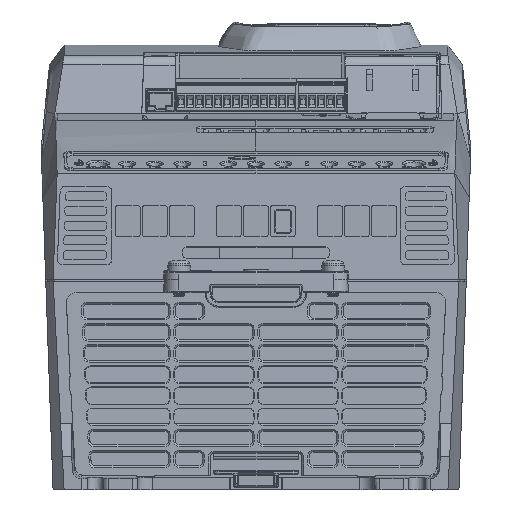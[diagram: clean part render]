
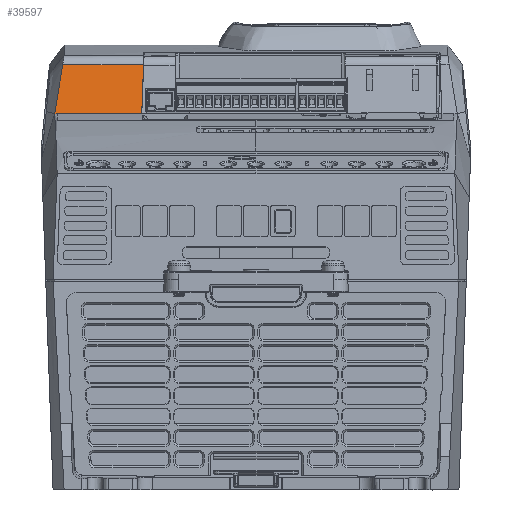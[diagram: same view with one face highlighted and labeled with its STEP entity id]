
A CAD part, front view. The second image highlights one B-rep face of the part: STEP entity #39597.
In plain terms, the highlighted planar face has unit normal (0, -0.984, 0.178).
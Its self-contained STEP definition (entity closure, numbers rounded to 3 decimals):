
#304 = VERTEX_POINT ( 'NONE', #11035 ) ;
#1898 = B_SPLINE_CURVE_WITH_KNOTS ( 'NONE', 3,
 ( #205933, #302590, #14508, #75579 ),
 .UNSPECIFIED., .F., .F.,
 ( 4, 4 ),
 ( 0., 0. ),
 .UNSPECIFIED. ) ;
#3171 = LINE ( 'NONE', #326916, #368938 ) ;
#5008 = VERTEX_POINT ( 'NONE', #154567 ) ;
#11035 = CARTESIAN_POINT ( 'NONE',  ( -61.858, -60.882, 97.761 ) ) ;
#13624 = B_SPLINE_CURVE_WITH_KNOTS ( 'NONE', 3,
 ( #142173, #74910, #331366, #240954, #13847, #81149, #138025, #146365, #108572, #173711, #362931, #43342, #49587, #177853, #299844, #274581, #270379, #402758, #398572, #245114, #59979 ),
 .UNSPECIFIED., .F., .F.,
 ( 4, 2, 2, 1, 1, 1, 1, 1, 1, 1, 1, 1, 2, 2, 4 ),
 ( 0., 0.25, 0.375, 0.437, 0.469, 0.484, 0.492, 0.496, 0.498, 0.499, 0.5, 0.5, 0.5, 0.5, 1. ),
 .UNSPECIFIED. ) ;
#13847 = CARTESIAN_POINT ( 'NONE',  ( -108.249, -63.635, 82.539 ) ) ;
#14508 = CARTESIAN_POINT ( 'NONE',  ( -61.858, -60.883, 97.759 ) ) ;
#14835 = VERTEX_POINT ( 'NONE', #218781 ) ;
#19865 = CARTESIAN_POINT ( 'NONE',  ( -61.869, -61.097, 96.573 ) ) ;
#35983 = ORIENTED_EDGE ( 'NONE', *, *, #342758, .T. ) ;
#37134 = CARTESIAN_POINT ( 'NONE',  ( -105.741, -60.882, 97.761 ) ) ;
#39597 = ADVANCED_FACE ( 'NONE', ( #211275 ), #55600, .T. ) ;
#41616 = ORIENTED_EDGE ( 'NONE', *, *, #165744, .T. ) ;
#43342 = CARTESIAN_POINT ( 'NONE',  ( -107.933, -63.289, 84.452 ) ) ;
#49587 = CARTESIAN_POINT ( 'NONE',  ( -107.932, -63.288, 84.458 ) ) ;
#52815 = VERTEX_POINT ( 'NONE', #53337 ) ;
#52913 = CARTESIAN_POINT ( 'NONE',  ( -62.731, -65.692, 71.165 ) ) ;
#53337 = CARTESIAN_POINT ( 'NONE',  ( -61.984, -62.165, 90.668 ) ) ;
#55600 = PLANE ( 'NONE',  #113410 ) ;
#59979 = CARTESIAN_POINT ( 'NONE',  ( -105.741, -60.882, 97.761 ) ) ;
#74910 = CARTESIAN_POINT ( 'NONE',  ( -109.457, -64.961, 75.206 ) ) ;
#75579 = CARTESIAN_POINT ( 'NONE',  ( -61.858, -60.882, 97.761 ) ) ;
#80906 = CARTESIAN_POINT ( 'NONE',  ( -110.123, -65.692, 71.166 ) ) ;
#81149 = CARTESIAN_POINT ( 'NONE',  ( -108.087, -63.458, 83.517 ) ) ;
#85135 = CARTESIAN_POINT ( 'NONE',  ( -61.911, -61.738, 93.03 ) ) ;
#90692 = CARTESIAN_POINT ( 'NONE',  ( -108.589, -65.692, 71.165 ) ) ;
#98231 = DIRECTION ( 'NONE',  ( 1., 0., 0. ) ) ;
#105582 = B_SPLINE_CURVE_WITH_KNOTS ( 'NONE', 3,
 ( #238809, #121007, #175725, #306059 ),
 .UNSPECIFIED., .F., .F.,
 ( 4, 4 ),
 ( 0., 0.032 ),
 .UNSPECIFIED. ) ;
#108572 = CARTESIAN_POINT ( 'NONE',  ( -107.948, -63.305, 84.365 ) ) ;
#113410 = AXIS2_PLACEMENT_3D ( 'NONE', #148178, #183854, #312106 ) ;
#116041 = CARTESIAN_POINT ( 'NONE',  ( -93.303, -65.692, 71.165 ) ) ;
#116682 = CARTESIAN_POINT ( 'NONE',  ( -61.876, -61.311, 95.392 ) ) ;
#121007 = CARTESIAN_POINT ( 'NONE',  ( -109.611, -65.692, 71.165 ) ) ;
#122233 = CARTESIAN_POINT ( 'NONE',  ( -78.017, -65.692, 71.165 ) ) ;
#125682 = LINE ( 'NONE', #37134, #156858 ) ;
#132542 = VERTEX_POINT ( 'NONE', #151412 ) ;
#138025 = CARTESIAN_POINT ( 'NONE',  ( -108.021, -63.385, 83.921 ) ) ;
#142173 = CARTESIAN_POINT ( 'NONE',  ( -110.123, -65.692, 71.166 ) ) ;
#144650 = EDGE_CURVE ( 'NONE', #5008, #304, #125682, .T. ) ;
#146365 = CARTESIAN_POINT ( 'NONE',  ( -107.968, -63.327, 84.242 ) ) ;
#148178 = CARTESIAN_POINT ( 'NONE',  ( 119.5, -65.692, 71.165 ) ) ;
#151412 = CARTESIAN_POINT ( 'NONE',  ( -62.731, -65.692, 71.165 ) ) ;
#154567 = CARTESIAN_POINT ( 'NONE',  ( -105.741, -60.882, 97.761 ) ) ;
#156858 = VECTOR ( 'NONE', #98231, 1000. ) ;
#165744 = EDGE_CURVE ( 'NONE', #350811, #190851, #105582, .T. ) ;
#168915 = ORIENTED_EDGE ( 'NONE', *, *, #144650, .F. ) ;
#173711 = CARTESIAN_POINT ( 'NONE',  ( -107.939, -63.295, 84.417 ) ) ;
#175725 = CARTESIAN_POINT ( 'NONE',  ( -109.1, -65.692, 71.165 ) ) ;
#177853 = CARTESIAN_POINT ( 'NONE',  ( -107.932, -63.288, 84.461 ) ) ;
#183854 = DIRECTION ( 'NONE',  ( 0., -0.984, 0.178 ) ) ;
#187030 = ORIENTED_EDGE ( 'NONE', *, *, #405442, .F. ) ;
#190851 = VERTEX_POINT ( 'NONE', #229414 ) ;
#205933 = CARTESIAN_POINT ( 'NONE',  ( -61.858, -60.884, 97.754 ) ) ;
#211275 = FACE_OUTER_BOUND ( 'NONE', #263997, .T. ) ;
#213966 = ORIENTED_EDGE ( 'NONE', *, *, #361017, .F. ) ;
#218781 = CARTESIAN_POINT ( 'NONE',  ( -61.858, -60.884, 97.754 ) ) ;
#229414 = CARTESIAN_POINT ( 'NONE',  ( -108.589, -65.692, 71.165 ) ) ;
#238809 = CARTESIAN_POINT ( 'NONE',  ( -110.123, -65.692, 71.166 ) ) ;
#240954 = CARTESIAN_POINT ( 'NONE',  ( -108.394, -63.794, 81.659 ) ) ;
#245114 = CARTESIAN_POINT ( 'NONE',  ( -106.111, -61.289, 95.513 ) ) ;
#255986 = EDGE_CURVE ( 'NONE', #350811, #5008, #13624, .T. ) ;
#263244 = B_SPLINE_CURVE_WITH_KNOTS ( 'NONE', 3,
 ( #373124, #307961, #85135, #116682, #19865, #398346 ),
 .UNSPECIFIED., .F., .F.,
 ( 4, 2, 4 ),
 ( 0.025, 0.029, 0.032 ),
 .UNSPECIFIED. ) ;
#263997 = EDGE_LOOP ( 'NONE', ( #168915, #338346, #41616, #187030, #213966, #412890, #35983 ) ) ;
#270379 = CARTESIAN_POINT ( 'NONE',  ( -107.932, -63.287, 84.463 ) ) ;
#274581 = CARTESIAN_POINT ( 'NONE',  ( -107.932, -63.287, 84.462 ) ) ;
#299844 = CARTESIAN_POINT ( 'NONE',  ( -107.932, -63.287, 84.462 ) ) ;
#302590 = CARTESIAN_POINT ( 'NONE',  ( -61.858, -60.883, 97.756 ) ) ;
#306059 = CARTESIAN_POINT ( 'NONE',  ( -108.589, -65.692, 71.165 ) ) ;
#307961 = CARTESIAN_POINT ( 'NONE',  ( -61.938, -61.952, 91.849 ) ) ;
#312106 = DIRECTION ( 'NONE',  ( 0., -0.178, -0.984 ) ) ;
#324838 = DIRECTION ( 'NONE',  ( -0.038, -0.178, -0.983 ) ) ;
#326916 = CARTESIAN_POINT ( 'NONE',  ( -61.951, -62.012, 91.514 ) ) ;
#331366 = CARTESIAN_POINT ( 'NONE',  ( -108.941, -64.396, 78.335 ) ) ;
#338346 = ORIENTED_EDGE ( 'NONE', *, *, #255986, .F. ) ;
#342758 = EDGE_CURVE ( 'NONE', #14835, #304, #1898, .T. ) ;
#350811 = VERTEX_POINT ( 'NONE', #80906 ) ;
#354416 = EDGE_CURVE ( 'NONE', #52815, #14835, #263244, .T. ) ;
#361017 = EDGE_CURVE ( 'NONE', #52815, #132542, #3171, .T. ) ;
#362931 = CARTESIAN_POINT ( 'NONE',  ( -107.935, -63.291, 84.441 ) ) ;
#368938 = VECTOR ( 'NONE', #324838, 1000. ) ;
#373124 = CARTESIAN_POINT ( 'NONE',  ( -61.984, -62.165, 90.668 ) ) ;
#373661 = B_SPLINE_CURVE_WITH_KNOTS ( 'NONE', 3,
 ( #52913, #122233, #116041, #90692 ),
 .UNSPECIFIED., .F., .F.,
 ( 4, 4 ),
 ( 0., 1. ),
 .UNSPECIFIED. ) ;
#398346 = CARTESIAN_POINT ( 'NONE',  ( -61.858, -60.884, 97.754 ) ) ;
#398572 = CARTESIAN_POINT ( 'NONE',  ( -106.841, -62.09, 91.08 ) ) ;
#402758 = CARTESIAN_POINT ( 'NONE',  ( -107.932, -63.287, 84.462 ) ) ;
#405442 = EDGE_CURVE ( 'NONE', #132542, #190851, #373661, .T. ) ;
#412890 = ORIENTED_EDGE ( 'NONE', *, *, #354416, .T. ) ;
